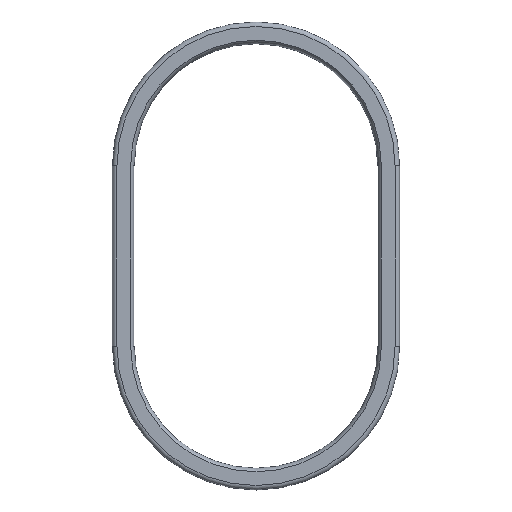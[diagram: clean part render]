
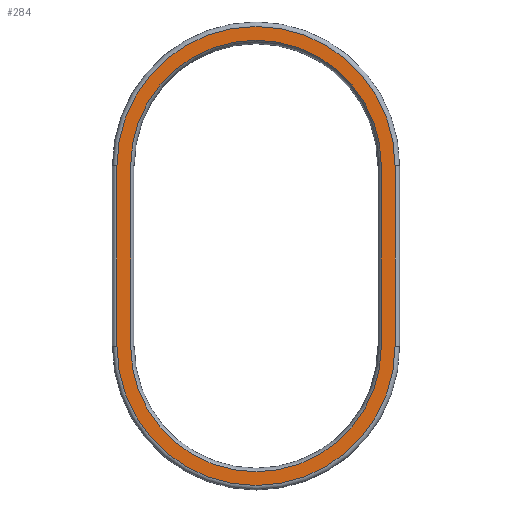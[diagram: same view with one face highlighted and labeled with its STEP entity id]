
A CAD part, top view. The second image highlights one B-rep face of the part: STEP entity #284.
In plain terms, the highlighted planar face has unit normal (0, 0, 1).
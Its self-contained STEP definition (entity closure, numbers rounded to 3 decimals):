
#15=FACE_BOUND('',#91,.T.);
#18=PLANE('',#346);
#27=LINE('',#502,#43);
#28=LINE('',#507,#44);
#31=LINE('',#524,#47);
#32=LINE('',#526,#48);
#43=VECTOR('',#406,10.);
#44=VECTOR('',#411,10.);
#47=VECTOR('',#434,10.);
#48=VECTOR('',#435,10.);
#72=FACE_OUTER_BOUND('',#90,.T.);
#90=EDGE_LOOP('',(#231,#232,#233,#234));
#91=EDGE_LOOP('',(#235,#236,#237,#238));
#106=CIRCLE('',#324,24.6);
#108=CIRCLE('',#327,22.176);
#119=CIRCLE('',#345,24.6);
#120=CIRCLE('',#347,22.176);
#129=VERTEX_POINT('',#475);
#130=VERTEX_POINT('',#477);
#132=VERTEX_POINT('',#482);
#133=VERTEX_POINT('',#484);
#138=VERTEX_POINT('',#500);
#140=VERTEX_POINT('',#505);
#144=VERTEX_POINT('',#520);
#145=VERTEX_POINT('',#525);
#156=EDGE_CURVE('',#129,#130,#106,.T.);
#158=EDGE_CURVE('',#132,#133,#108,.T.);
#167=EDGE_CURVE('',#138,#129,#27,.T.);
#169=EDGE_CURVE('',#140,#132,#28,.T.);
#177=EDGE_CURVE('',#144,#138,#119,.T.);
#178=EDGE_CURVE('',#130,#144,#31,.T.);
#179=EDGE_CURVE('',#133,#145,#32,.T.);
#180=EDGE_CURVE('',#145,#140,#120,.T.);
#231=ORIENTED_EDGE('',*,*,#177,.T.);
#232=ORIENTED_EDGE('',*,*,#167,.T.);
#233=ORIENTED_EDGE('',*,*,#156,.T.);
#234=ORIENTED_EDGE('',*,*,#178,.T.);
#235=ORIENTED_EDGE('',*,*,#179,.F.);
#236=ORIENTED_EDGE('',*,*,#158,.F.);
#237=ORIENTED_EDGE('',*,*,#169,.F.);
#238=ORIENTED_EDGE('',*,*,#180,.F.);
#284=ADVANCED_FACE('',(#72,#15),#18,.T.);
#324=AXIS2_PLACEMENT_3D('',#479,#380,#381);
#327=AXIS2_PLACEMENT_3D('',#485,#386,#387);
#345=AXIS2_PLACEMENT_3D('',#522,#430,#431);
#346=AXIS2_PLACEMENT_3D('',#523,#432,#433);
#347=AXIS2_PLACEMENT_3D('',#527,#436,#437);
#380=DIRECTION('center_axis',(0.,0.,1.));
#381=DIRECTION('ref_axis',(-1.,0.,0.));
#386=DIRECTION('center_axis',(0.,0.,1.));
#387=DIRECTION('ref_axis',(-1.,0.,0.));
#406=DIRECTION('',(0.,-1.,0.));
#411=DIRECTION('',(0.,-1.,0.));
#430=DIRECTION('center_axis',(0.,0.,1.));
#431=DIRECTION('ref_axis',(1.,0.,0.));
#432=DIRECTION('center_axis',(0.,0.,1.));
#433=DIRECTION('ref_axis',(1.,0.,0.));
#434=DIRECTION('',(0.,1.,0.));
#435=DIRECTION('',(0.,1.,0.));
#436=DIRECTION('center_axis',(0.,0.,1.));
#437=DIRECTION('ref_axis',(1.,0.,0.));
#475=CARTESIAN_POINT('',(-24.6,0.,1.35));
#477=CARTESIAN_POINT('',(24.6,0.,1.35));
#479=CARTESIAN_POINT('Origin',(0.,0.,
1.35));
#482=CARTESIAN_POINT('',(-22.176,0.,1.35));
#484=CARTESIAN_POINT('',(22.176,0.,1.35));
#485=CARTESIAN_POINT('Origin',(0.,0.,
1.35));
#500=CARTESIAN_POINT('',(-24.6,32.,1.35));
#502=CARTESIAN_POINT('',(-24.6,32.,1.35));
#505=CARTESIAN_POINT('',(-22.176,32.,1.35));
#507=CARTESIAN_POINT('',(-22.176,32.,1.35));
#520=CARTESIAN_POINT('',(24.6,32.,1.35));
#522=CARTESIAN_POINT('Origin',(0.,32.,1.35));
#523=CARTESIAN_POINT('Origin',(22.176,32.,1.35));
#524=CARTESIAN_POINT('',(24.6,0.,1.35));
#525=CARTESIAN_POINT('',(22.176,32.,1.35));
#526=CARTESIAN_POINT('',(22.176,0.,1.35));
#527=CARTESIAN_POINT('Origin',(0.,32.,1.35));
